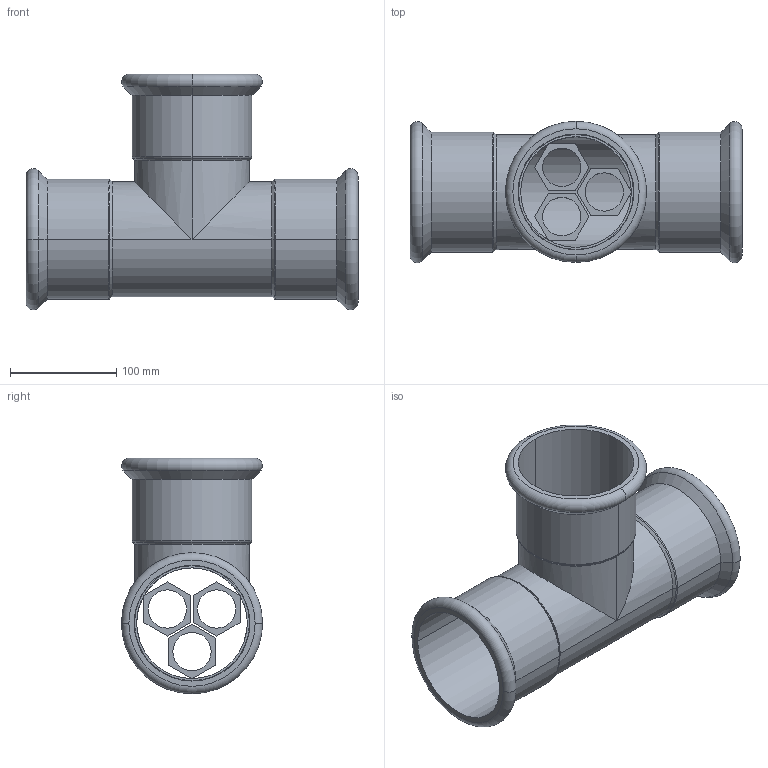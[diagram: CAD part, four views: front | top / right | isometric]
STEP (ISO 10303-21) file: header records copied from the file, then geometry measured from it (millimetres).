
FILE_DESCRIPTION(('OneSpaceDesigner STEP Export'),'2;1');
FILE_NAME('R2714 108x108x108.stp','2010-06-10T 8:46:44',(''),(''),'OneSpace Designer STEP processor for AP214 (Solid Model)','OneSpace Modeling 15.00A 14-Mar-2007 (C) CoCreate Software GmbH','');
FILE_SCHEMA(('AUTOMOTIVE_DESIGN { 1 0 10303 214 1 1 1 1 }'));
Length unit declared in the file: millimetre
Products named in the file (2): R2714_108x108x108
Assembly tree (1 placements, depth 2):
  R2714_108x108x108
    R2714_108x108x108
Bounding box: 312 x 132.58 x 221.29 mm (x, y, z)
Volume: 458644.8 mm3; surface area: 315808.9 mm2
Topology: 1 solids, 1 shells, 173 faces, 432 edges, 275 vertices
Faces by surface type: plane 92, cylinder 57, cone 12, torus 12
Entity records: 4490 total; most frequent: ORIENTED_EDGE 864, CARTESIAN_POINT 730, DIRECTION 645, EDGE_CURVE 432, VERTEX_POINT 275, VECTOR 265, LINE 265, EDGE_LOOP 209
